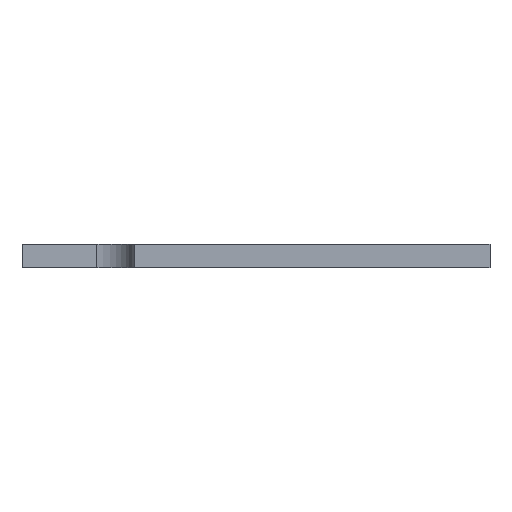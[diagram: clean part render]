
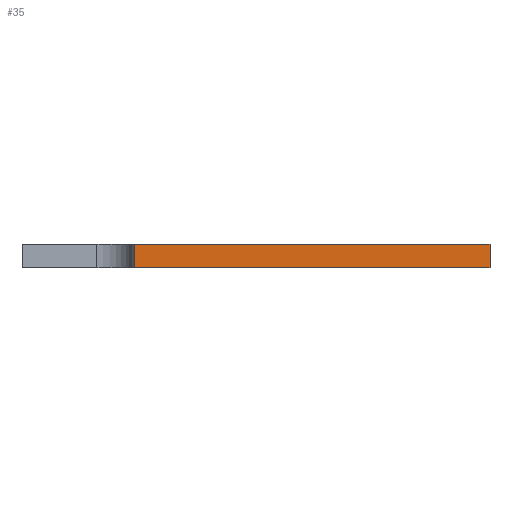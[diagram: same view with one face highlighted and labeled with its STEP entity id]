
A CAD part, front view. The second image highlights one B-rep face of the part: STEP entity #35.
In plain terms, the highlighted planar face has unit normal (0, -1, 0).
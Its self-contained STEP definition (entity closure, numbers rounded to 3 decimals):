
#35 = ADVANCED_FACE('',(#36),#70,.T.);
#36 = FACE_BOUND('',#37,.T.);
#37 = EDGE_LOOP('',(#38,#48,#56,#64));
#38 = ORIENTED_EDGE('',*,*,#39,.T.);
#39 = EDGE_CURVE('',#40,#42,#44,.T.);
#40 = VERTEX_POINT('',#41);
#41 = CARTESIAN_POINT('',(15.875,-20.32,0.));
#42 = VERTEX_POINT('',#43);
#43 = CARTESIAN_POINT('',(15.875,-20.32,1.6));
#44 = LINE('',#45,#46);
#45 = CARTESIAN_POINT('',(15.875,-20.32,0.));
#46 = VECTOR('',#47,1.);
#47 = DIRECTION('',(0.,0.,1.));
#48 = ORIENTED_EDGE('',*,*,#49,.T.);
#49 = EDGE_CURVE('',#42,#50,#52,.T.);
#50 = VERTEX_POINT('',#51);
#51 = CARTESIAN_POINT('',(-8.255,-20.32,1.6));
#52 = LINE('',#53,#54);
#53 = CARTESIAN_POINT('',(15.875,-20.32,1.6));
#54 = VECTOR('',#55,1.);
#55 = DIRECTION('',(-1.,0.,0.));
#56 = ORIENTED_EDGE('',*,*,#57,.F.);
#57 = EDGE_CURVE('',#58,#50,#60,.T.);
#58 = VERTEX_POINT('',#59);
#59 = CARTESIAN_POINT('',(-8.255,-20.32,0.));
#60 = LINE('',#61,#62);
#61 = CARTESIAN_POINT('',(-8.255,-20.32,0.));
#62 = VECTOR('',#63,1.);
#63 = DIRECTION('',(0.,0.,1.));
#64 = ORIENTED_EDGE('',*,*,#65,.F.);
#65 = EDGE_CURVE('',#40,#58,#66,.T.);
#66 = LINE('',#67,#68);
#67 = CARTESIAN_POINT('',(15.875,-20.32,0.));
#68 = VECTOR('',#69,1.);
#69 = DIRECTION('',(-1.,0.,0.));
#70 = PLANE('',#71);
#71 = AXIS2_PLACEMENT_3D('',#72,#73,#74);
#72 = CARTESIAN_POINT('',(15.875,-20.32,0.));
#73 = DIRECTION('',(0.,-1.,0.));
#74 = DIRECTION('',(-1.,0.,0.));
